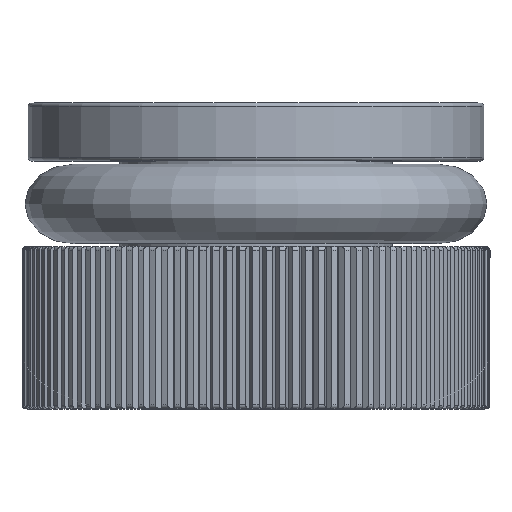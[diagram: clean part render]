
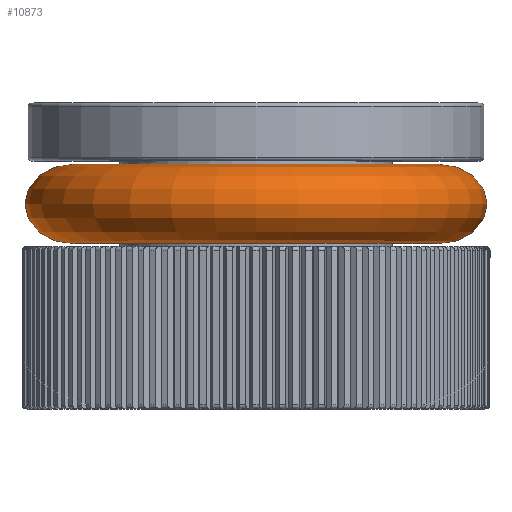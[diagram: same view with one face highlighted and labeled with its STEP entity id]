
A CAD part, top view. The second image highlights one B-rep face of the part: STEP entity #10873.
In plain terms, the highlighted free-form (B-spline) face has degree [2, 2] with [9, 9] control points.
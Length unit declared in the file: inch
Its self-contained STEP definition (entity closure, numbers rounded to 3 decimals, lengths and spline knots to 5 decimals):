
#13=ELLIPSE('',#11910,0.07725,0.06465);
#14=(
BOUNDED_SURFACE()
B_SPLINE_SURFACE(2,2,((#22051,#22052,#22053,#22054,#22055,#22056,#22057,
#22058,#22059),(#22060,#22061,#22062,#22063,#22064,#22065,#22066,#22067,
#22068),(#22069,#22070,#22071,#22072,#22073,#22074,#22075,#22076,#22077),
(#22078,#22079,#22080,#22081,#22082,#22083,#22084,#22085,#22086),(#22087,
#22088,#22089,#22090,#22091,#22092,#22093,#22094,#22095),(#22096,#22097,
#22098,#22099,#22100,#22101,#22102,#22103,#22104),(#22105,#22106,#22107,
#22108,#22109,#22110,#22111,#22112,#22113),(#22114,#22115,#22116,#22117,
#22118,#22119,#22120,#22121,#22122),(#22123,#22124,#22125,#22126,#22127,
#22128,#22129,#22130,#22131)),.UNSPECIFIED.,.T.,.T.,.F.)
B_SPLINE_SURFACE_WITH_KNOTS((3,2,2,2,3),(3,2,2,2,3),(-3.14159,
-1.5708,0.,1.5708,3.14159),(0.,1.5708,
3.14159,4.71239,6.28319),.UNSPECIFIED.)
GEOMETRIC_REPRESENTATION_ITEM()
RATIONAL_B_SPLINE_SURFACE(((1.,0.707,1.,0.707,1.,
0.707,1.,0.707,1.),(0.707,0.5,0.707,
0.5,0.707,0.5,0.707,0.5,0.707),(1.,
0.707,1.,0.707,1.,0.707,1.,0.707,
1.),(0.707,0.5,0.707,0.5,
0.707,0.5,0.707,0.5,
0.707),(1.,0.707,1.,0.707,1.,0.707,
1.,0.707,1.),(0.707,0.5,0.707,0.5,0.707,
0.5,0.707,0.5,0.707),(1.,0.707,1.,0.707,
1.,0.707,1.,0.707,1.),(0.707,0.5,
0.707,0.5,0.707,0.5,
0.707,0.5,0.707),(1.,0.707,
1.,0.707,1.,0.707,1.,0.707,1.)))
REPRESENTATION_ITEM('')
SURFACE()
);
#1582=FACE_OUTER_BOUND('',#2147,.T.);
#2147=EDGE_LOOP('',(#10306,#10307,#10308,#10309));
#4158=CIRCLE('',#11911,0.223);
#5278=VERTEX_POINT('',#22132);
#6954=EDGE_CURVE('',#5278,#5278,#13,.T.);
#6955=EDGE_CURVE('',#5278,#5278,#4158,.T.);
#10306=ORIENTED_EDGE('',*,*,#6954,.T.);
#10307=ORIENTED_EDGE('',*,*,#6955,.T.);
#10308=ORIENTED_EDGE('',*,*,#6954,.F.);
#10309=ORIENTED_EDGE('',*,*,#6955,.F.);
#10873=ADVANCED_FACE('',(#1582),#14,.T.);
#11910=AXIS2_PLACEMENT_3D('',#22133,#14731,#14732);
#11911=AXIS2_PLACEMENT_3D('',#22134,#14733,#14734);
#14731=DIRECTION('center_axis',(1.,0.,0.));
#14732=DIRECTION('ref_axis',(0.,0.,-1.));
#14733=DIRECTION('center_axis',(0.,-1.,0.));
#14734=DIRECTION('ref_axis',(1.,0.,0.));
#22051=CARTESIAN_POINT('Ctrl Pts',(0.,0.335,-0.223));
#22052=CARTESIAN_POINT('Ctrl Pts',(0.223,0.335,
-0.223));
#22053=CARTESIAN_POINT('Ctrl Pts',(0.223,0.335,
0.));
#22054=CARTESIAN_POINT('Ctrl Pts',(0.223,0.335,
0.223));
#22055=CARTESIAN_POINT('Ctrl Pts',(0.,0.335,0.223));
#22056=CARTESIAN_POINT('Ctrl Pts',(-0.223,0.335,
0.223));
#22057=CARTESIAN_POINT('Ctrl Pts',(-0.223,0.335,
0.));
#22058=CARTESIAN_POINT('Ctrl Pts',(-0.223,0.335,
-0.223));
#22059=CARTESIAN_POINT('Ctrl Pts',(0.,0.335,-0.223));
#22060=CARTESIAN_POINT('Ctrl Pts',(0.,0.27035,-0.223));
#22061=CARTESIAN_POINT('Ctrl Pts',(0.223,0.27035,
-0.223));
#22062=CARTESIAN_POINT('Ctrl Pts',(0.223,0.27035,
0.));
#22063=CARTESIAN_POINT('Ctrl Pts',(0.223,0.27035,
0.223));
#22064=CARTESIAN_POINT('Ctrl Pts',(0.,0.27035,0.223));
#22065=CARTESIAN_POINT('Ctrl Pts',(-0.223,0.27035,
0.223));
#22066=CARTESIAN_POINT('Ctrl Pts',(-0.223,0.27035,
0.));
#22067=CARTESIAN_POINT('Ctrl Pts',(-0.223,0.27035,
-0.223));
#22068=CARTESIAN_POINT('Ctrl Pts',(0.,0.27035,-0.223));
#22069=CARTESIAN_POINT('Ctrl Pts',(0.,0.27035,-0.30025));
#22070=CARTESIAN_POINT('Ctrl Pts',(0.30025,0.27035,
-0.30025));
#22071=CARTESIAN_POINT('Ctrl Pts',(0.30025,0.27035,
0.));
#22072=CARTESIAN_POINT('Ctrl Pts',(0.30025,0.27035,
0.30025));
#22073=CARTESIAN_POINT('Ctrl Pts',(0.,0.27035,0.30025));
#22074=CARTESIAN_POINT('Ctrl Pts',(-0.30025,0.27035,
0.30025));
#22075=CARTESIAN_POINT('Ctrl Pts',(-0.30025,0.27035,
0.));
#22076=CARTESIAN_POINT('Ctrl Pts',(-0.30025,0.27035,
-0.30025));
#22077=CARTESIAN_POINT('Ctrl Pts',(0.,0.27035,-0.30025));
#22078=CARTESIAN_POINT('Ctrl Pts',(0.,0.27035,-0.3775));
#22079=CARTESIAN_POINT('Ctrl Pts',(0.3775,0.27035,
-0.3775));
#22080=CARTESIAN_POINT('Ctrl Pts',(0.3775,0.27035,
0.));
#22081=CARTESIAN_POINT('Ctrl Pts',(0.3775,0.27035,
0.3775));
#22082=CARTESIAN_POINT('Ctrl Pts',(0.,0.27035,0.3775));
#22083=CARTESIAN_POINT('Ctrl Pts',(-0.3775,0.27035,
0.3775));
#22084=CARTESIAN_POINT('Ctrl Pts',(-0.3775,0.27035,
0.));
#22085=CARTESIAN_POINT('Ctrl Pts',(-0.3775,0.27035,
-0.3775));
#22086=CARTESIAN_POINT('Ctrl Pts',(0.,0.27035,-0.3775));
#22087=CARTESIAN_POINT('Ctrl Pts',(0.,0.335,-0.3775));
#22088=CARTESIAN_POINT('Ctrl Pts',(0.3775,0.335,
-0.3775));
#22089=CARTESIAN_POINT('Ctrl Pts',(0.3775,0.335,
0.));
#22090=CARTESIAN_POINT('Ctrl Pts',(0.3775,0.335,
0.3775));
#22091=CARTESIAN_POINT('Ctrl Pts',(0.,0.335,0.3775));
#22092=CARTESIAN_POINT('Ctrl Pts',(-0.3775,0.335,
0.3775));
#22093=CARTESIAN_POINT('Ctrl Pts',(-0.3775,0.335,
0.));
#22094=CARTESIAN_POINT('Ctrl Pts',(-0.3775,0.335,
-0.3775));
#22095=CARTESIAN_POINT('Ctrl Pts',(0.,0.335,-0.3775));
#22096=CARTESIAN_POINT('Ctrl Pts',(0.,0.39965,-0.3775));
#22097=CARTESIAN_POINT('Ctrl Pts',(0.3775,0.39965,
-0.3775));
#22098=CARTESIAN_POINT('Ctrl Pts',(0.3775,0.39965,
0.));
#22099=CARTESIAN_POINT('Ctrl Pts',(0.3775,0.39965,
0.3775));
#22100=CARTESIAN_POINT('Ctrl Pts',(0.,0.39965,0.3775));
#22101=CARTESIAN_POINT('Ctrl Pts',(-0.3775,0.39965,
0.3775));
#22102=CARTESIAN_POINT('Ctrl Pts',(-0.3775,0.39965,
0.));
#22103=CARTESIAN_POINT('Ctrl Pts',(-0.3775,0.39965,
-0.3775));
#22104=CARTESIAN_POINT('Ctrl Pts',(0.,0.39965,-0.3775));
#22105=CARTESIAN_POINT('Ctrl Pts',(0.,0.39965,-0.30025));
#22106=CARTESIAN_POINT('Ctrl Pts',(0.30025,0.39965,
-0.30025));
#22107=CARTESIAN_POINT('Ctrl Pts',(0.30025,0.39965,
0.));
#22108=CARTESIAN_POINT('Ctrl Pts',(0.30025,0.39965,
0.30025));
#22109=CARTESIAN_POINT('Ctrl Pts',(0.,0.39965,0.30025));
#22110=CARTESIAN_POINT('Ctrl Pts',(-0.30025,0.39965,
0.30025));
#22111=CARTESIAN_POINT('Ctrl Pts',(-0.30025,0.39965,
0.));
#22112=CARTESIAN_POINT('Ctrl Pts',(-0.30025,0.39965,
-0.30025));
#22113=CARTESIAN_POINT('Ctrl Pts',(0.,0.39965,-0.30025));
#22114=CARTESIAN_POINT('Ctrl Pts',(0.,0.39965,-0.223));
#22115=CARTESIAN_POINT('Ctrl Pts',(0.223,0.39965,
-0.223));
#22116=CARTESIAN_POINT('Ctrl Pts',(0.223,0.39965,
0.));
#22117=CARTESIAN_POINT('Ctrl Pts',(0.223,0.39965,
0.223));
#22118=CARTESIAN_POINT('Ctrl Pts',(0.,0.39965,0.223));
#22119=CARTESIAN_POINT('Ctrl Pts',(-0.223,0.39965,
0.223));
#22120=CARTESIAN_POINT('Ctrl Pts',(-0.223,0.39965,
0.));
#22121=CARTESIAN_POINT('Ctrl Pts',(-0.223,0.39965,
-0.223));
#22122=CARTESIAN_POINT('Ctrl Pts',(0.,0.39965,-0.223));
#22123=CARTESIAN_POINT('Ctrl Pts',(0.,0.335,-0.223));
#22124=CARTESIAN_POINT('Ctrl Pts',(0.223,0.335,
-0.223));
#22125=CARTESIAN_POINT('Ctrl Pts',(0.223,0.335,
0.));
#22126=CARTESIAN_POINT('Ctrl Pts',(0.223,0.335,
0.223));
#22127=CARTESIAN_POINT('Ctrl Pts',(0.,0.335,0.223));
#22128=CARTESIAN_POINT('Ctrl Pts',(-0.223,0.335,
0.223));
#22129=CARTESIAN_POINT('Ctrl Pts',(-0.223,0.335,
0.));
#22130=CARTESIAN_POINT('Ctrl Pts',(-0.223,0.335,
-0.223));
#22131=CARTESIAN_POINT('Ctrl Pts',(0.,0.335,-0.223));
#22132=CARTESIAN_POINT('',(0.,0.335,-0.223));
#22133=CARTESIAN_POINT('Origin',(0.,0.335,-0.30025));
#22134=CARTESIAN_POINT('Origin',(0.,0.335,0.));
